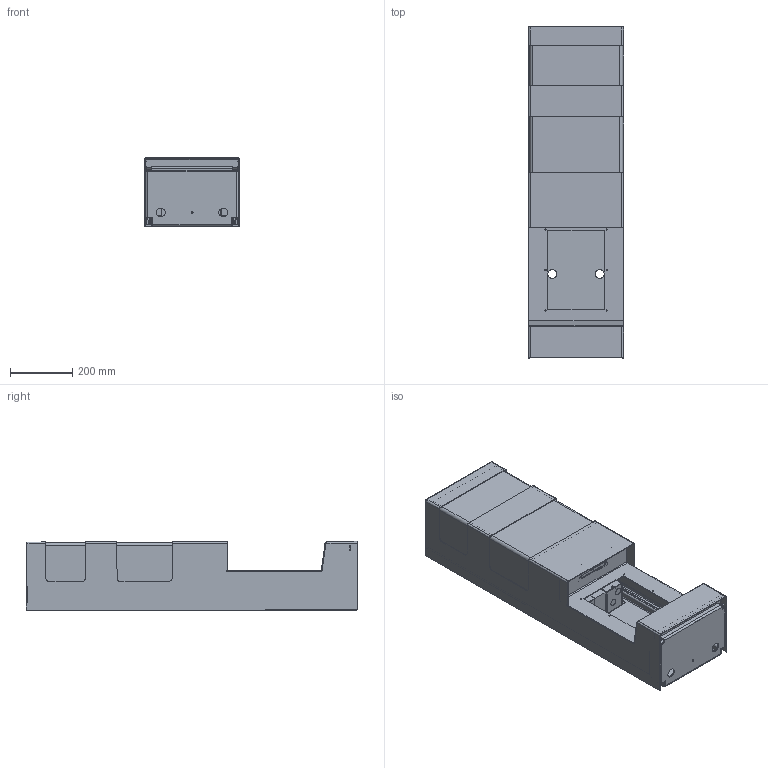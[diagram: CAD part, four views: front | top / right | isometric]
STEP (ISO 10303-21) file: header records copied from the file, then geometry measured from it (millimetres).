
FILE_DESCRIPTION (( 'STEP AP203' ), '1' );
FILE_NAME ('cad-115_CB2-s_dwg.STEP', '2019-05-03T01:40:47', ( '' ), ( '' ), 'SwSTEP 2.0', 'SolidWorks 2018', '' );
FILE_SCHEMA (( 'CONFIG_CONTROL_DESIGN' ));
Products named in the file (1): cad-115_CB2-s_dwg
Bounding box: 305.68 x 1067.42 x 222.26 mm (x, y, z)
Volume: 7359630 mm3; surface area: 4350545 mm2
Topology: 67 solids, 68 shells, 2583 faces, 6429 edges, 4096 vertices
Faces by surface type: plane 1225, cylinder 793, cone 396, bspline 169
Entity records: 86400 total; most frequent: CARTESIAN_POINT 25357, ORIENTED_EDGE 12794, DIRECTION 12505, EDGE_CURVE 6397, AXIS2_PLACEMENT_3D 4576, VERTEX_POINT 4096, VECTOR 3353, LINE 3353
